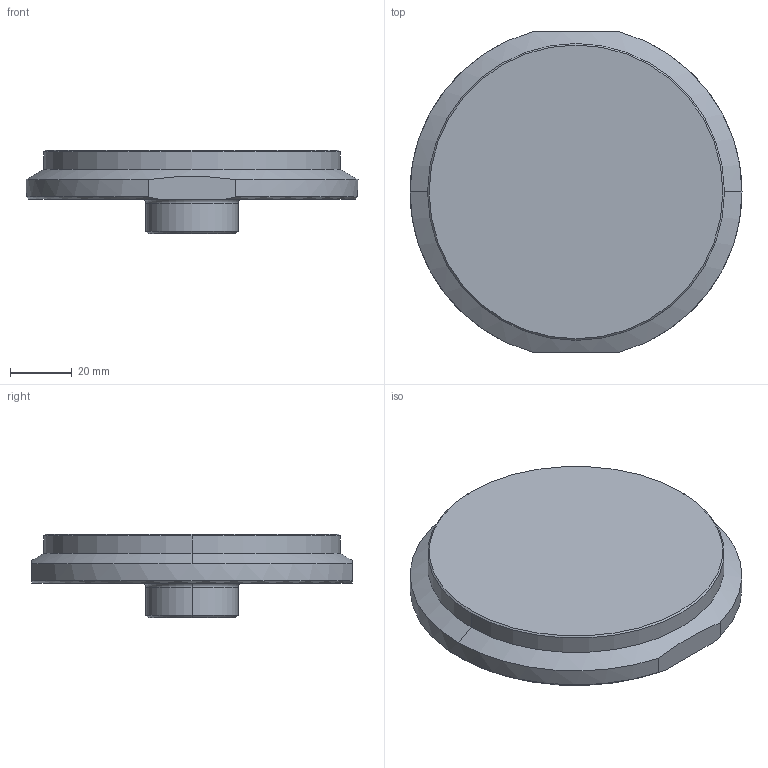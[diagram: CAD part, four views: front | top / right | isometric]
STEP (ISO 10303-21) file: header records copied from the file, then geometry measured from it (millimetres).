
FILE_DESCRIPTION((''),'2;1');
FILE_NAME('RMC-6006','2007-09-25T',('glafferty'),('Pleasant Precision, Inc. (419)675-0556'),'PRO/ENGINEER BY PARAMETRIC TECHNOLOGY CORPORATION, 2006080','PRO/ENGINEER BY PARAMETRIC TECHNOLOGY CORPORATION, 2006080','');
FILE_SCHEMA(('CONFIG_CONTROL_DESIGN'));
Length unit declared in the file: inch
Products named in the file (1): RMC-6006
Bounding box: 107.95 x 104.14 x 27.1 mm (x, y, z)
Volume: 135413.1 mm3; surface area: 24645.5 mm2
Topology: 1 solids, 2 shells, 31 faces, 70 edges, 43 vertices
Faces by surface type: cylinder 12, cone 10, plane 7, torus 2
Entity records: 932 total; most frequent: CARTESIAN_POINT 177, DIRECTION 164, ORIENTED_EDGE 132, AXIS2_PLACEMENT_3D 70, EDGE_CURVE 68, VERTEX_POINT 43, CIRCLE 38, EDGE_LOOP 35
